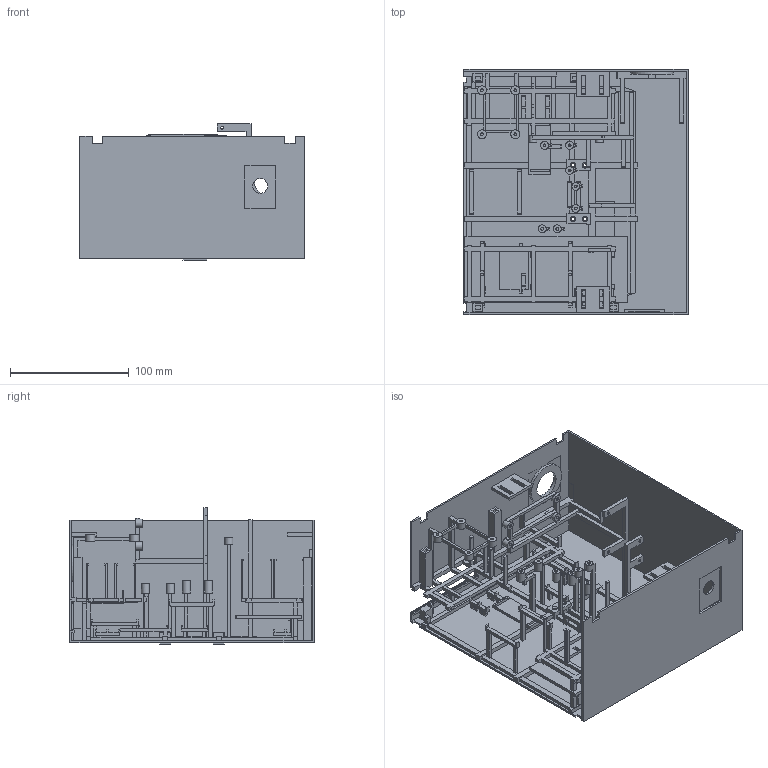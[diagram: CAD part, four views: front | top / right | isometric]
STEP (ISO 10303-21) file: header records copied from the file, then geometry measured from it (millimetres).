
FILE_DESCRIPTION(('Open CASCADE Model'),'2;1');
FILE_NAME('Open CASCADE Shape Model','2026-11-19T19:15:41',('Author'),( 'Open CASCADE'),'Open CASCADE STEP processor 8.0','Open CASCADE 8.0' ,'Unknown');
FILE_SCHEMA(('AUTOMOTIVE_DESIGN { 1 0 10303 214 1 1 1 1 }'));
Products named in the file (1): Open CASCADE STEP translator 8.0 3
Bounding box: 188.85 x 206 x 114.78 mm (x, y, z)
Volume: 249389.1 mm3; surface area: 276579.9 mm2
Topology: 1 solids, 1 shells, 1437 faces, 4249 edges, 2835 vertices
Faces by surface type: plane 1382, cylinder 43, cone 9, bspline 3
Full cylindrical faces by diameter (mm): 2.24 x4, 2.3 x8, 2.36 x7, 2.8 x4, 6.6 x7, 6.9 x4, 7.6 x4, 12.5 x1, 22.8 x1, 23 x1, 36 x1
Entity records: 99989 total; most frequent: CARTESIAN_POINT 21116, DIRECTION 12396, LINE 8969, VECTOR 8969, ORIENTED_EDGE 8498, PCURVE 8498, DEFINITIONAL_REPRESENTATION 8498, EDGE_CURVE 4249
